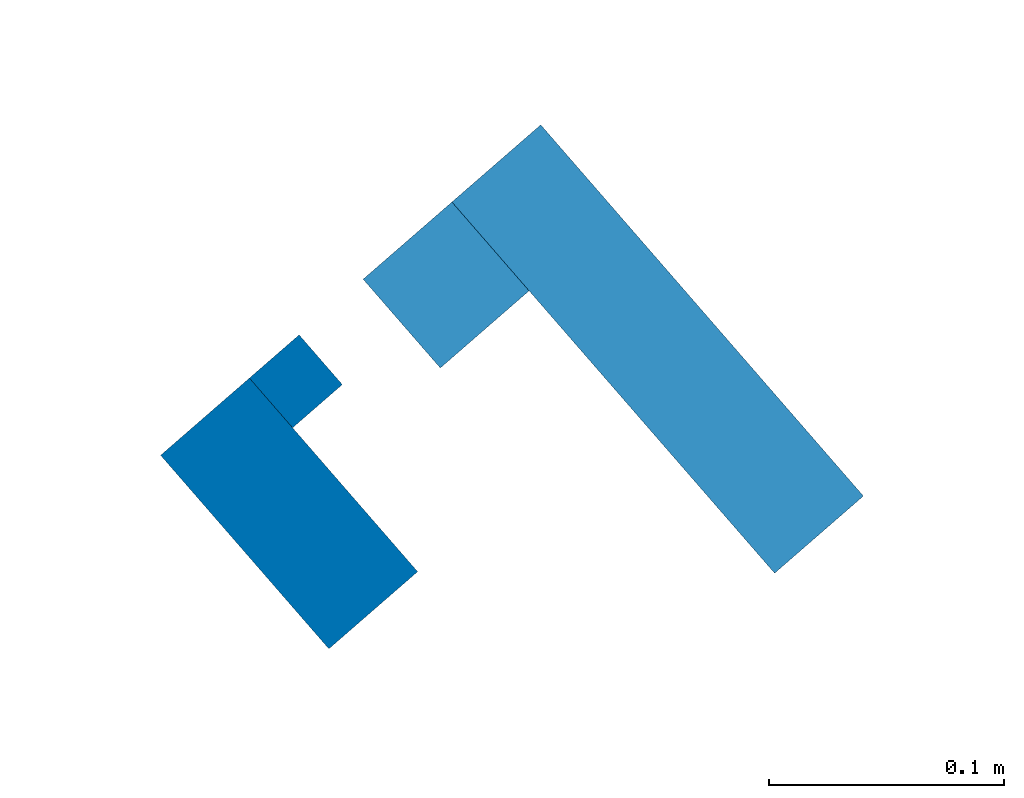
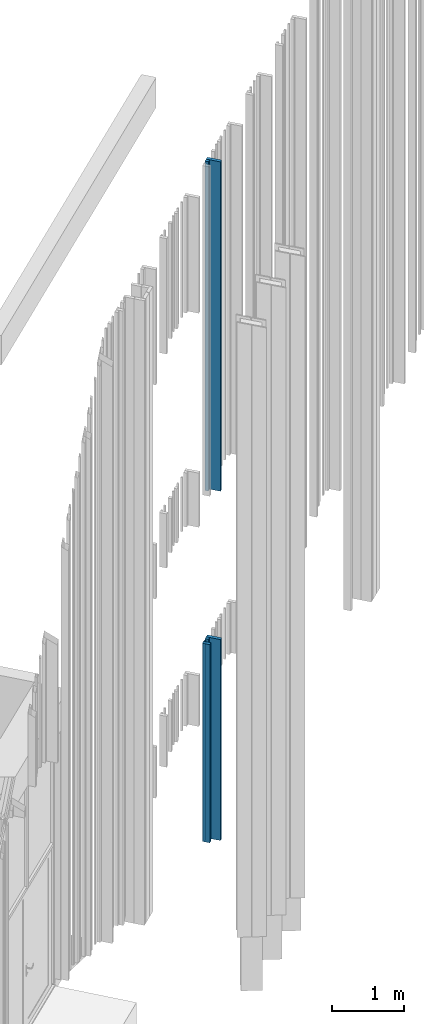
# One storey, part 214 of 390: 6 walls.
"""IFC2X3 building model written with IfcOpenShell, lengths in millimetres."""

from ifc_helpers import new_model, entity, si_unit, converted_unit, derived_unit, money_unit, direction, frame, origin_with_axes, place, context, subcontext, project, spatial, faceted_brep, material, type_object, element, save


model = new_model("IFC2X3")

# Units and contexts
model_context = context("Model", 3, precision=1e-05, world=origin_with_axes(), true_north=direction((0.0, 1.0)))
body_context = subcontext(model_context, "Body", "Model", "MODEL_VIEW")
ifc_project = project(units=[si_unit("LENGTHUNIT", "METRE", prefix="MILLI"), si_unit("AREAUNIT", "SQUARE_METRE"), si_unit("VOLUMEUNIT", "CUBIC_METRE"), converted_unit("PLANEANGLEUNIT", "DEGREE", entity("IfcPlaneAngleMeasure", 0.0174532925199), si_unit("PLANEANGLEUNIT", "RADIAN"), dimensions=[0, 0, 0, 0, 0, 0, 0]), si_unit("SOLIDANGLEUNIT", "STERADIAN"), money_unit("EUR"), converted_unit("TIMEUNIT", "Year", entity("IfcTimeMeasure", 31556926.0), si_unit("TIMEUNIT", "SECOND"), dimensions=[0, 0, 1, 0, 0, 0, 0]), si_unit("MASSUNIT", "GRAM", prefix="KILO"), si_unit("THERMODYNAMICTEMPERATUREUNIT", "DEGREE_CELSIUS"), si_unit("LUMINOUSINTENSITYUNIT", "LUMEN"), si_unit("ENERGYUNIT", "JOULE", prefix="MEGA"), derived_unit("THERMALCONDUCTANCEUNIT", [(si_unit("POWERUNIT", "WATT"), 1), (si_unit("LENGTHUNIT", "METRE"), -1), (si_unit("THERMODYNAMICTEMPERATUREUNIT", "KELVIN"), -1)]), derived_unit("SPECIFICHEATCAPACITYUNIT", [(si_unit("ENERGYUNIT", "JOULE"), 1), (si_unit("MASSUNIT", "GRAM", prefix="KILO"), -1), (si_unit("THERMODYNAMICTEMPERATUREUNIT", "KELVIN"), -1)]), derived_unit("MASSDENSITYUNIT", [(si_unit("MASSUNIT", "GRAM", prefix="KILO"), 1), (si_unit("VOLUMEUNIT", "CUBIC_METRE"), -1)])], contexts=[model_context])

# Site, building, storey
site_placement = place(None, origin_with_axes())
site = spatial("IfcSite", under=ifc_project, at=site_placement, Name="Site", CompositionType="ELEMENT")
building_placement = place(site_placement, origin_with_axes())
building = spatial("IfcBuilding", under=site, at=building_placement, Name="Building", CompositionType="ELEMENT")
storey_placement = place(building_placement, origin_with_axes())
storey = spatial("IfcBuildingStorey", under=building, at=storey_placement, Name="1 korrus", CompositionType="ELEMENT", Elevation=0.0)

# Walls
ifc_material = material(Name="Site specified")
wall_type = type_object("IfcWallType", Name="Puitfassaadi ribistik", PredefinedType="NOTDEFINED")
wall_1_placement = place(storey_placement, frame((153325.253645, 77808.8881556, -1599.65300044), z_axis=(0.0, 0.0, 1.0), x_axis=(-0.754709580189, -0.65605902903, 0.0)))
element("IfcWall", 1, at=wall_1_placement, inside=storey, type_object=wall_type, material=ifc_material, Name="Site specified", context=body_context, shape_type="Brep", body=[
    faceted_brep([(-25.0, -104.5, 3394.65300044), (-25.0, -104.5, 0.0), (25.0, -104.5, 0.0), (25.0, -104.5, 3394.65300044), (-25.0, 104.5, 3394.65300044), (-25.0, 104.5, 0.0), (25.0, 104.5, 0.0), (25.0, 104.5, 3394.65300044)], [[[0, 1, 2, 3]], [[4, 5, 1, 0]], [[2, 1, 5, 6]], [[3, 2, 6, 7]], [[4, 0, 3, 7]], [[7, 6, 5, 4]]]),
])
wall_2_placement = place(storey_placement, frame((153235.361473, 77836.0846158, -1585.16818396), z_axis=(0.0, 0.0, 1.0), x_axis=(-0.754709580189, -0.65605902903, 0.0)))
element("IfcWall", 2, at=wall_2_placement, inside=storey, type_object=wall_type, material=ifc_material, Name="Site specified", context=body_context, shape_type="Brep", body=[
    faceted_brep([(-25.0, -25.0, 3380.16818396), (-25.0, -25.0, 0.0), (25.0, -25.0, 0.0), (25.0, -25.0, 3380.16818396), (-25.0, 25.0, 3380.16818396), (-25.0, 25.0, 0.0), (25.0, 25.0, 0.0), (25.0, 25.0, 3380.16818396)], [[[0, 1, 2, 3]], [[4, 5, 1, 0]], [[2, 1, 5, 6]], [[3, 2, 6, 7]], [[4, 0, 3, 7]], [[7, 6, 5, 4]]]),
])
wall_3_placement = place(storey_placement, frame((153235.361474, 77836.0846156, 4300.0), z_axis=(0.0, 0.0, 1.0), x_axis=(-0.754709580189, -0.65605902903, 0.0)))
element("IfcWall", 3, at=wall_3_placement, inside=storey, type_object=wall_type, material=ifc_material, Name="Site specified", context=body_context, shape_type="Brep", body=[
    faceted_brep([(-25.0, -25.0, 5565.0), (-25.0, -25.0, 0.0), (25.0, -25.0, 0.0), (25.0, -25.0, 5565.0), (-25.0, 25.0, 5565.0), (-25.0, 25.0, 0.0), (25.0, 25.0, 0.0), (25.0, 25.0, 5565.0)], [[[0, 1, 2, 3]], [[4, 5, 1, 0]], [[2, 1, 5, 6]], [[3, 2, 6, 7]], [[4, 0, 3, 7]], [[7, 6, 5, 4]]]),
])
wall_4_placement = place(storey_placement, frame((153325.253645, 77808.8881554, 4300.0), z_axis=(0.0, 0.0, 1.0), x_axis=(-0.754709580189, -0.65605902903, 0.0)))
element("IfcWall", 4, at=wall_4_placement, inside=storey, type_object=wall_type, material=ifc_material, Name="Site specified", context=body_context, shape_type="Brep", body=[
    faceted_brep([(-25.0, -104.5, 5565.0), (-25.0, -104.5, 0.0), (25.0, -104.5, 0.0), (25.0, -104.5, 5565.0), (-25.0, 104.5, 5565.0), (-25.0, 104.5, 0.0), (25.0, 104.5, 0.0), (25.0, 104.5, 5565.0)], [[[0, 1, 2, 3]], [[4, 5, 1, 0]], [[2, 1, 5, 6]], [[3, 2, 6, 7]], [[4, 0, 3, 7]], [[7, 6, 5, 4]]]),
])
wall_5_placement = place(storey_placement, frame((153168.661458, 77739.0148254, -1552.13623994), z_axis=(0.0, 0.0, 1.0), x_axis=(-0.754709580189, -0.65605902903, 0.0)))
element("IfcWall", 5, at=wall_5_placement, inside=storey, type_object=wall_type, material=ifc_material, Name="Site specified", context=body_context, shape_type="Brep", body=[
    faceted_brep([(-25.0, -54.5, 3347.13625871), (-25.0, -54.5, 0.0), (25.0, -54.5, 0.0), (25.0, -54.5, 3347.13625871), (-25.0, 54.5, 3347.13625871), (-25.0, 54.5, 0.0), (25.0, 54.5, 0.0), (25.0, 54.5, 3347.13625871)], [[[0, 1, 2, 3]], [[4, 5, 1, 0]], [[2, 1, 5, 6]], [[3, 2, 6, 7]], [[4, 0, 3, 7]], [[7, 6, 5, 4]]]),
])
wall_6_placement = place(storey_placement, frame((153171.524741, 77795.1668655, -1566.62105641), z_axis=(0.0, 0.0, 1.0), x_axis=(-0.754709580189, -0.65605902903, 0.0)))
element("IfcWall", 6, at=wall_6_placement, inside=storey, type_object=wall_type, material=ifc_material, Name="Site specified", context=body_context, shape_type="Brep", body=[
    faceted_brep([(-14.0, -14.0, 3361.62107519), (-14.0, -14.0, 0.0), (14.0, -14.0, 0.0), (14.0, -14.0, 3361.62107519), (-14.0, 14.0, 3361.62107519), (-14.0, 14.0, 0.0), (14.0, 14.0, 0.0), (14.0, 14.0, 3361.62107519)], [[[0, 1, 2, 3]], [[4, 5, 1, 0]], [[2, 1, 5, 6]], [[3, 2, 6, 7]], [[4, 0, 3, 7]], [[7, 6, 5, 4]]]),
])

save(model, "model.ifc")
